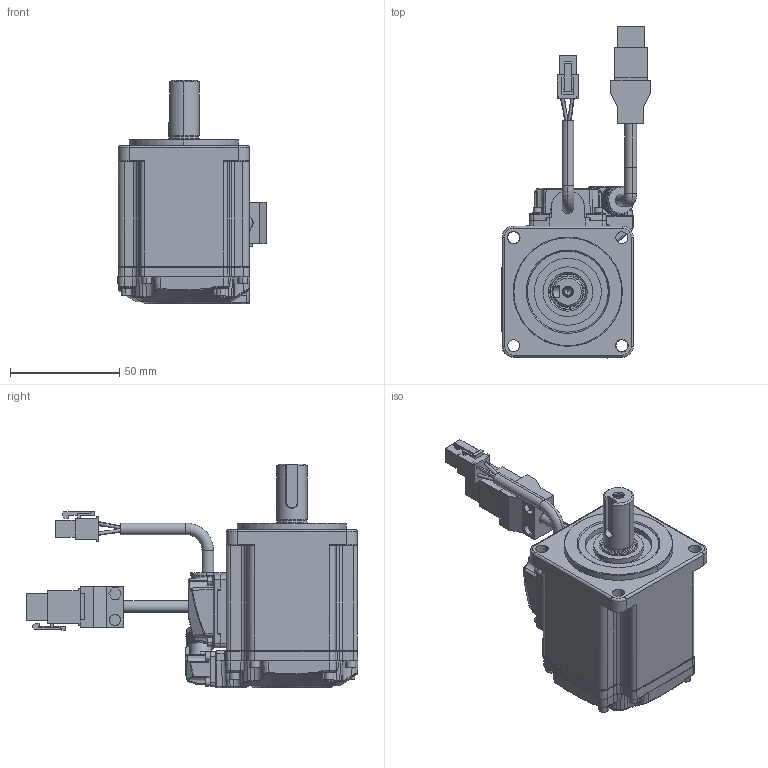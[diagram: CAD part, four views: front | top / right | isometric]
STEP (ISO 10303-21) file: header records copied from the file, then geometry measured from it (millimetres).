
FILE_DESCRIPTION((''),'2;1');
FILE_NAME('ECM-B3M-C20602RS1_ASM','2019-05-08T',('MIO.CHEN'),(''),'CREO PARAMETRIC BY PTC INC, 2015080','CREO PARAMETRIC BY PTC INC, 2015080','');
FILE_SCHEMA(('CONFIG_CONTROL_DESIGN'));
Length unit declared in the file: inch
Products named in the file (4): ECM-B3M-C20602RS1; CABLE_CLAMP-1; C1302H02_3X3P-1; ECM-B3M-C20602RS1_ASM
Assembly tree (3 placements, depth 2):
  ECM-B3M-C20602RS1_ASM
    ECM-B3M-C20602RS1
    CABLE_CLAMP-1
    C1302H02_3X3P-1
Bounding box: 67.99 x 152 x 102.5 mm (x, y, z)
Volume: 275141.3 mm3; surface area: 39937.6 mm2
Topology: 3 solids, 3 shells, 1415 faces, 3480 edges, 2111 vertices
Faces by surface type: plane 603, cylinder 355, cone 166, bspline 148, torus 120, sphere 23
Entity records: 49007 total; most frequent: CARTESIAN_POINT 17263, ORIENTED_EDGE 6924, DIRECTION 6146, EDGE_CURVE 3462, AXIS2_PLACEMENT_3D 2292, VERTEX_POINT 2111, VECTOR 1562, LINE 1562
